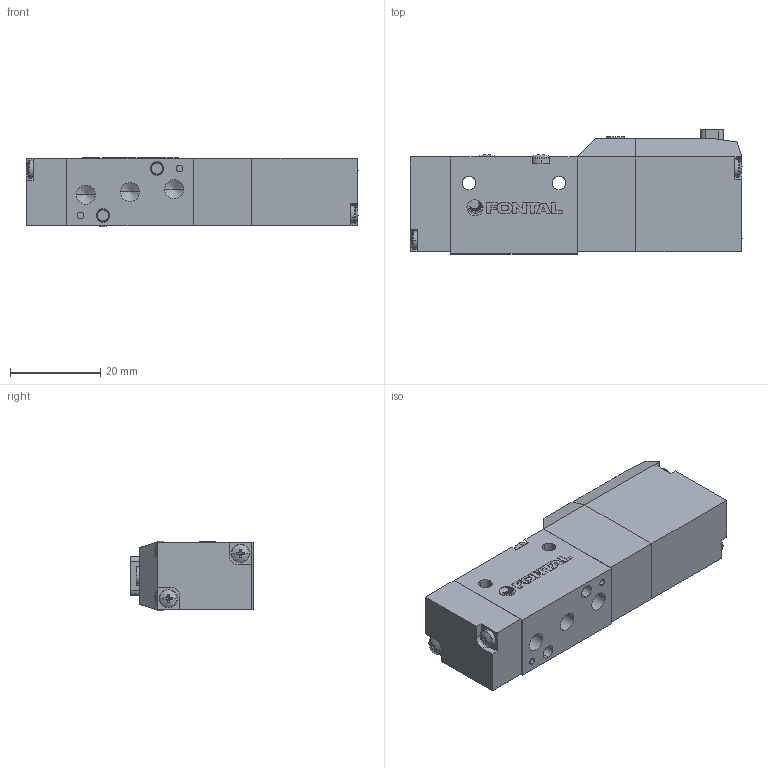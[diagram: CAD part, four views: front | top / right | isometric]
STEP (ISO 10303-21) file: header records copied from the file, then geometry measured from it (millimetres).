
FILE_DESCRIPTION (( 'STEP AP203' ), '1' );
FILE_NAME ('RCS245#-M5-#-L-#.STEP', '2016-02-04T05:22:58', ( 'Sam Lin' ), ( '' ), 'SwSTEP 2.0', 'SolidWorks 2013', '' );
FILE_SCHEMA (( 'CONFIG_CONTROL_DESIGN' ));
Length unit declared in the file: metre
Products named in the file (9): PC5-6; ISO 7045 - M2.5 x 25; RCS245#-M5-#-L-#; PC5-4; RCS-1; PC-MARK; PC5-2; ISO 7045 - M2 x 10; PC5-5
Assembly tree (12 placements, depth 2):
  RCS245#-M5-#-L-#
    RCS-1
    PC-MARK
    PC5-2
    ISO 7045 - M2 x 10  x4
    PC5-5
    PC5-6
    PC5-4
    ISO 7045 - M2.5 x 25  x2
Bounding box: 73.64 x 27.5 x 15.4 mm (x, y, z)
Volume: 23827.3 mm3; surface area: 11165.7 mm2
Topology: 18 solids, 18 shells, 472 faces, 1160 edges, 718 vertices
Faces by surface type: plane 259, cylinder 97, cone 72, bspline 44
Entity records: 10297 total; most frequent: CARTESIAN_POINT 2119, ORIENTED_EDGE 1480, DIRECTION 1464, EDGE_CURVE 740, AXIS2_PLACEMENT_3D 511, VERTEX_POINT 478, VECTOR 442, LINE 442
